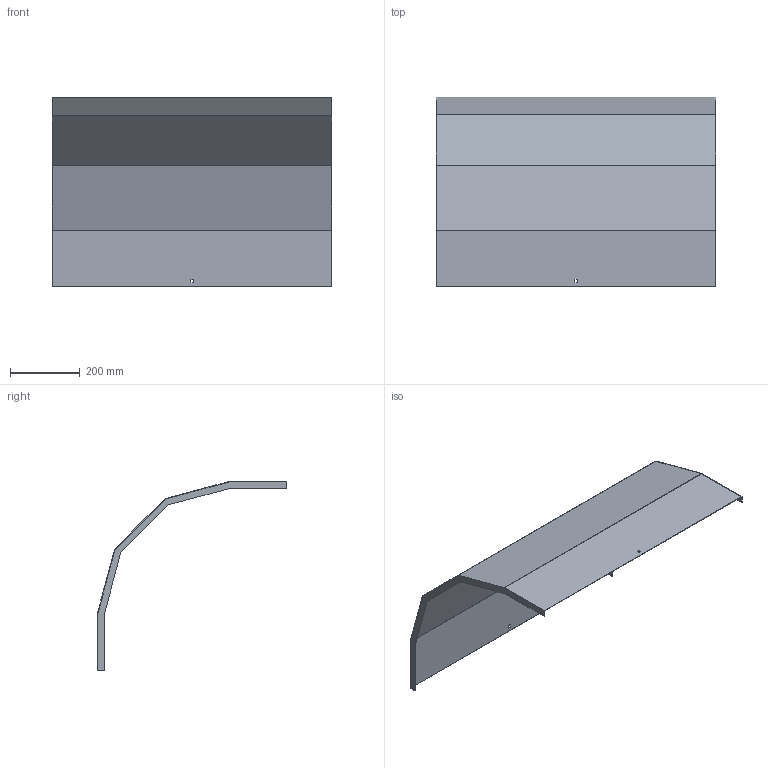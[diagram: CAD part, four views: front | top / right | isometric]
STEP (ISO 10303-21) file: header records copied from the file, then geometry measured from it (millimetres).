
FILE_DESCRIPTION (( 'STEP AP214' ), '1' );
FILE_NAME ('A2_33N3C800.step', '2025-02-21T10:44:42', ( '' ), ( '' ), 'SwSTEP 2.0', 'SolidWorks 2023', '' );
FILE_SCHEMA (( 'AUTOMOTIVE_DESIGN' ));
Length unit declared in the file: millimetre
Products named in the file (1): A2_33N3C800
Bounding box: 803 x 544.46 x 544.46 mm (x, y, z)
Volume: 1152806.7 mm3; surface area: 1542347.3 mm2
Topology: 1 solids, 1 shells, 34 faces, 96 edges, 64 vertices
Faces by surface type: plane 34
Entity records: 1111 total; most frequent: CARTESIAN_POINT 195, ORIENTED_EDGE 192, DIRECTION 166, LINE 96, EDGE_CURVE 96, VECTOR 96, VERTEX_POINT 64, EDGE_LOOP 38
